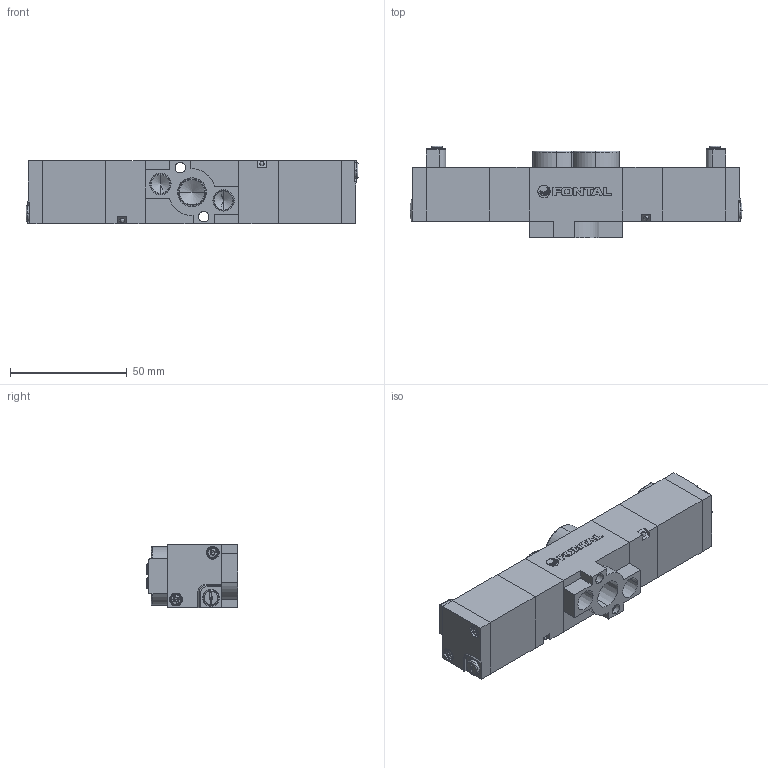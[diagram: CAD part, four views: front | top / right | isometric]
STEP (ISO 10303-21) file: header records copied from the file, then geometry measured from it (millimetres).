
FILE_DESCRIPTION (( 'STEP AP203' ), '1' );
FILE_NAME ('RCD2406-02-#L##.STEP', '2016-02-04T06:11:12', ( 'Sam Lin' ), ( '' ), 'SwSTEP 2.0', 'SolidWorks 2013', '' );
FILE_SCHEMA (( 'CONFIG_CONTROL_DESIGN' ));
Length unit declared in the file: metre
Products named in the file (9): RC06-5; RC06-6=L; RCD2406-02-#L##; PC06-MARK; RC06-1; RC06-3; PCS2406-3-小圓珠; PCS2406-9; PC6-M3
Assembly tree (16 placements, depth 2):
  RCD2406-02-#L##
    PC06-MARK
    RC06-1
    RC06-3  x2
    PCS2406-3-小圓珠  x2
    PCS2406-9  x2
    PC6-M3  x4
    RC06-5  x2
    RC06-6=L  x2
Bounding box: 142 x 39 x 27.15 mm (x, y, z)
Volume: 87728.5 mm3; surface area: 30531.6 mm2
Topology: 22 solids, 22 shells, 502 faces, 1246 edges, 788 vertices
Faces by surface type: plane 265, cylinder 108, bspline 67, cone 62
Entity records: 11470 total; most frequent: CARTESIAN_POINT 2855, ORIENTED_EDGE 1554, DIRECTION 1519, EDGE_CURVE 777, AXIS2_PLACEMENT_3D 521, VERTEX_POINT 509, LINE 477, VECTOR 477
